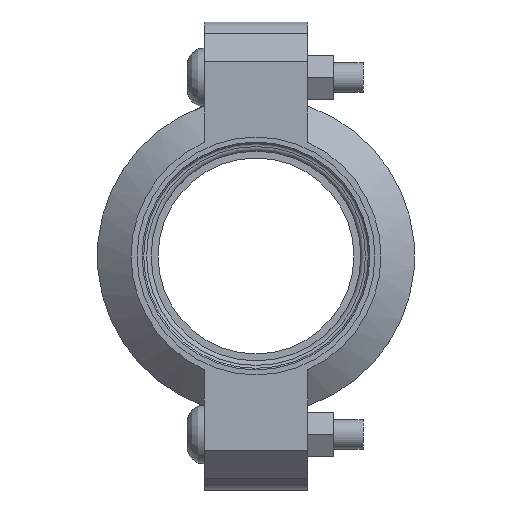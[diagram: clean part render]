
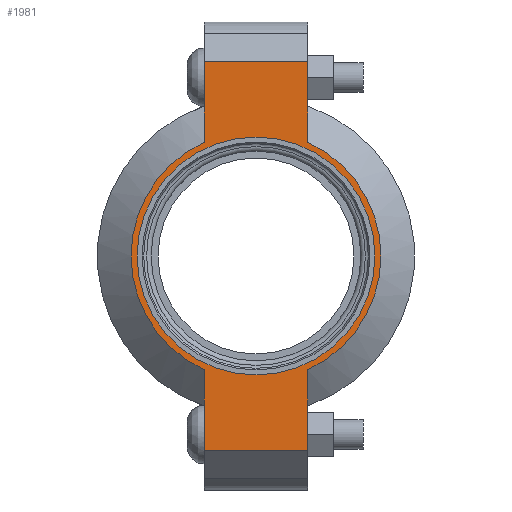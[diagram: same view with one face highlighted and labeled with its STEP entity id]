
A CAD part, left-side view. The second image highlights one B-rep face of the part: STEP entity #1981.
In plain terms, the highlighted planar face has unit normal (-1, 0, 0) as drawn and (0, 0, 1) by its records, which use the part's own axes.
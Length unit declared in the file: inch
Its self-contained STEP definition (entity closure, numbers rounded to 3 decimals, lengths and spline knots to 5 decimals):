
#152=LINE('',#3525,#251);
#165=LINE('',#3569,#264);
#170=LINE('',#3593,#269);
#177=LINE('',#3611,#276);
#184=LINE('',#3636,#283);
#185=LINE('',#3639,#284);
#251=VECTOR('',#2847,0.3937);
#264=VECTOR('',#2876,0.3937);
#269=VECTOR('',#2887,0.3937);
#276=VECTOR('',#2904,0.3937);
#283=VECTOR('',#2925,0.3937);
#284=VECTOR('',#2930,0.3937);
#336=FACE_BOUND('',#586,.T.);
#380=PLANE('',#2322);
#469=FACE_OUTER_BOUND('',#585,.T.);
#585=EDGE_LOOP('',(#1716,#1717,#1718,#1719,#1720,#1721,#1722,#1723));
#586=EDGE_LOOP('',(#1724));
#757=CIRCLE('',#2323,1.575);
#758=CIRCLE('',#2324,1.575);
#759=CIRCLE('',#2325,1.5);
#919=VERTEX_POINT('',#3520);
#920=VERTEX_POINT('',#3524);
#936=VERTEX_POINT('',#3566);
#937=VERTEX_POINT('',#3568);
#943=VERTEX_POINT('',#3588);
#944=VERTEX_POINT('',#3592);
#949=VERTEX_POINT('',#3608);
#950=VERTEX_POINT('',#3610);
#956=VERTEX_POINT('',#3641);
#1167=EDGE_CURVE('',#920,#919,#152,.T.);
#1187=EDGE_CURVE('',#937,#936,#165,.T.);
#1196=EDGE_CURVE('',#944,#943,#170,.T.);
#1205=EDGE_CURVE('',#950,#949,#177,.T.);
#1217=EDGE_CURVE('',#944,#936,#184,.T.);
#1218=EDGE_CURVE('',#943,#950,#757,.T.);
#1219=EDGE_CURVE('',#920,#949,#185,.T.);
#1220=EDGE_CURVE('',#919,#937,#758,.T.);
#1221=EDGE_CURVE('',#956,#956,#759,.T.);
#1716=ORIENTED_EDGE('',*,*,#1217,.F.);
#1717=ORIENTED_EDGE('',*,*,#1196,.T.);
#1718=ORIENTED_EDGE('',*,*,#1218,.T.);
#1719=ORIENTED_EDGE('',*,*,#1205,.T.);
#1720=ORIENTED_EDGE('',*,*,#1219,.F.);
#1721=ORIENTED_EDGE('',*,*,#1167,.T.);
#1722=ORIENTED_EDGE('',*,*,#1220,.T.);
#1723=ORIENTED_EDGE('',*,*,#1187,.T.);
#1724=ORIENTED_EDGE('',*,*,#1221,.T.);
#1981=ADVANCED_FACE('',(#469,#336),#380,.T.);
#2322=AXIS2_PLACEMENT_3D('',#3637,#2926,#2927);
#2323=AXIS2_PLACEMENT_3D('',#3638,#2928,#2929);
#2324=AXIS2_PLACEMENT_3D('',#3640,#2931,#2932);
#2325=AXIS2_PLACEMENT_3D('',#3642,#2933,#2934);
#2847=DIRECTION('',(1.,0.,0.));
#2876=DIRECTION('',(1.,0.,0.));
#2887=DIRECTION('',(-1.,0.,0.));
#2904=DIRECTION('',(-1.,0.,0.));
#2925=DIRECTION('',(0.,-1.,0.));
#2926=DIRECTION('center_axis',(0.,0.,1.));
#2927=DIRECTION('ref_axis',(-1.,0.,0.));
#2928=DIRECTION('center_axis',(0.,0.,1.));
#2929=DIRECTION('ref_axis',(1.,0.,0.));
#2930=DIRECTION('',(0.,1.,0.));
#2931=DIRECTION('center_axis',(0.,0.,1.));
#2932=DIRECTION('ref_axis',(1.,0.,0.));
#2933=DIRECTION('center_axis',(0.,0.,-1.));
#2934=DIRECTION('ref_axis',(1.,0.,0.));
#3520=CARTESIAN_POINT('',(-1.43462,-0.65,0.94));
#3524=CARTESIAN_POINT('',(-2.45,-0.65,0.94));
#3525=CARTESIAN_POINT('',(2.95,-0.65,0.94));
#3566=CARTESIAN_POINT('',(2.45,-0.65,0.94));
#3568=CARTESIAN_POINT('',(1.43462,-0.65,0.94));
#3569=CARTESIAN_POINT('',(2.95,-0.65,0.94));
#3588=CARTESIAN_POINT('',(1.43462,0.65,0.94));
#3592=CARTESIAN_POINT('',(2.45,0.65,0.94));
#3593=CARTESIAN_POINT('',(-2.95,0.65,0.94));
#3608=CARTESIAN_POINT('',(-2.45,0.65,0.94));
#3610=CARTESIAN_POINT('',(-1.43462,0.65,0.94));
#3611=CARTESIAN_POINT('',(-2.95,0.65,0.94));
#3636=CARTESIAN_POINT('',(2.45,-0.325,0.94));
#3637=CARTESIAN_POINT('Origin',(0.,0.,
0.94));
#3638=CARTESIAN_POINT('Origin',(0.,0.,0.94));
#3639=CARTESIAN_POINT('',(-2.45,0.325,0.94));
#3640=CARTESIAN_POINT('Origin',(0.,0.,0.94));
#3641=CARTESIAN_POINT('',(-1.5,0.,0.94));
#3642=CARTESIAN_POINT('Origin',(0.,0.,0.94));
